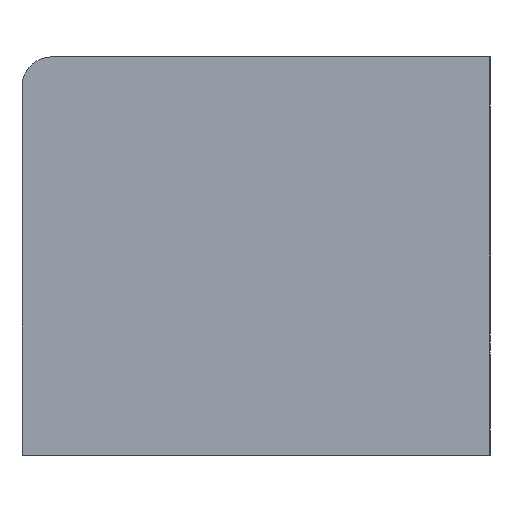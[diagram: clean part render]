
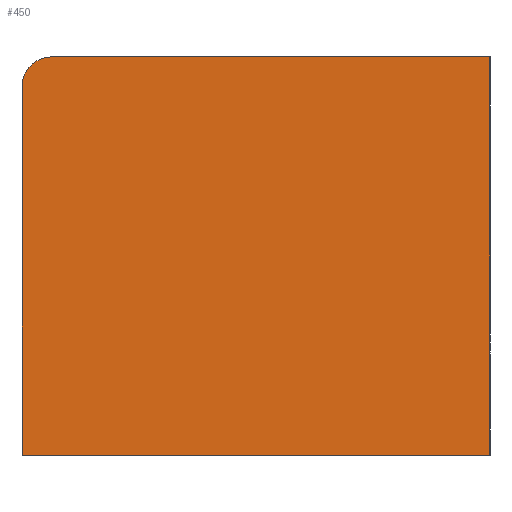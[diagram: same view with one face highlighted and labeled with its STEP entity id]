
A CAD part, left-side view. The second image highlights one B-rep face of the part: STEP entity #450.
In plain terms, the highlighted planar face has unit normal (-1, 0, 0).
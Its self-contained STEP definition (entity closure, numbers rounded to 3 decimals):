
#233=CARTESIAN_POINT('Vertex',(0.,0.,80.)) ;
#236=CARTESIAN_POINT('Line Origine',(0.,0.,40.)) ;
#240=CARTESIAN_POINT('Vertex',(0.,0.,0.)) ;
#329=CARTESIAN_POINT('Vertex',(0.,94.,0.)) ;
#332=CARTESIAN_POINT('Line Origine',(0.,94.,37.)) ;
#336=CARTESIAN_POINT('Vertex',(0.,94.,74.)) ;
#396=CARTESIAN_POINT('Line Origine',(0.,47.,0.)) ;
#414=CARTESIAN_POINT('Axis2P3D Location',(0.,88.,74.)) ;
#418=CARTESIAN_POINT('Vertex',(0.,88.,80.)) ;
#433=CARTESIAN_POINT('Axis2P3D Location',(0.,94.,0.)) ;
#438=CARTESIAN_POINT('Line Origine',(0.,44.,80.)) ;
#237=DIRECTION('Vector Direction',(0.,0.,1.)) ;
#333=DIRECTION('Vector Direction',(0.,0.,1.)) ;
#397=DIRECTION('Vector Direction',(0.,-1.,0.)) ;
#415=DIRECTION('Axis2P3D Direction',(-1.,0.,0.)) ;
#434=DIRECTION('Axis2P3D Direction',(-1.,0.,0.)) ;
#435=DIRECTION('Axis2P3D XDirection',(0.,-1.,0.)) ;
#439=DIRECTION('Vector Direction',(0.,1.,0.)) ;
#416=AXIS2_PLACEMENT_3D('Circle Axis2P3D',#414,#415,$) ;
#436=AXIS2_PLACEMENT_3D('Plane Axis2P3D',#433,#434,#435) ;
#444=ORIENTED_EDGE('',*,*,#242,.T.) ;
#445=ORIENTED_EDGE('',*,*,#442,.T.) ;
#446=ORIENTED_EDGE('',*,*,#420,.T.) ;
#447=ORIENTED_EDGE('',*,*,#338,.F.) ;
#448=ORIENTED_EDGE('',*,*,#400,.T.) ;
#238=VECTOR('Line Direction',#237,1.) ;
#334=VECTOR('Line Direction',#333,1.) ;
#398=VECTOR('Line Direction',#397,1.) ;
#440=VECTOR('Line Direction',#439,1.) ;
#450=ADVANCED_FACE('PartBody',(#449),#437,.T.) ;
#417=CIRCLE('generated circle',#416,6.) ;
#242=EDGE_CURVE('',#241,#234,#239,.T.) ;
#338=EDGE_CURVE('',#330,#337,#335,.T.) ;
#400=EDGE_CURVE('',#330,#241,#399,.T.) ;
#420=EDGE_CURVE('',#419,#337,#417,.T.) ;
#442=EDGE_CURVE('',#234,#419,#441,.T.) ;
#443=EDGE_LOOP('',(#444,#445,#446,#447,#448)) ;
#449=FACE_OUTER_BOUND('',#443,.T.) ;
#239=LINE('Line',#236,#238) ;
#335=LINE('Line',#332,#334) ;
#399=LINE('Line',#396,#398) ;
#441=LINE('Line',#438,#440) ;
#437=PLANE('',#436) ;
#234=VERTEX_POINT('',#233) ;
#241=VERTEX_POINT('',#240) ;
#330=VERTEX_POINT('',#329) ;
#337=VERTEX_POINT('',#336) ;
#419=VERTEX_POINT('',#418) ;
